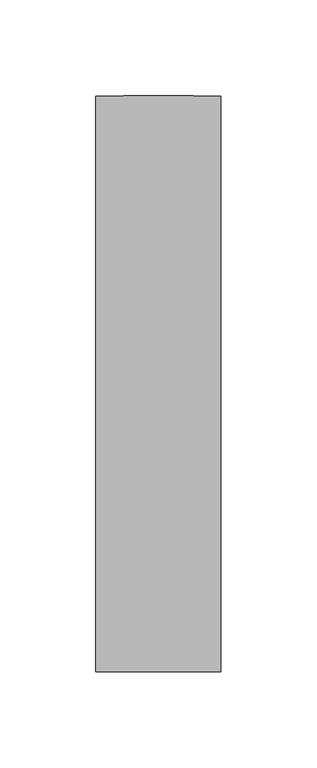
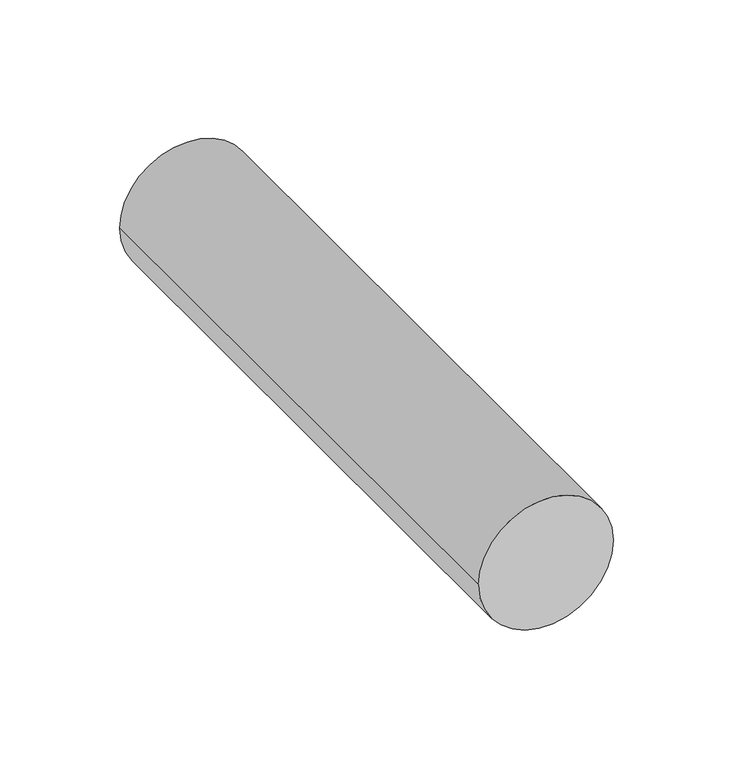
"""IFC4 building model written with IfcOpenShell, lengths in millimetres: proxy geometry, LFLO-MEXX-061."""

from ifc_helpers import new_model, si_unit, point, frame, origin, origin_2d, place, context, project, spatial, circle_curve, trimmed, segment, composite_curve, outline, extrude, source, transform, mapped, element, save


def generic_models_79030217(model_context):
    return source(origin(), model_context, "Body", "SweptSolid", [
        extrude(outline(composite_curve([segment(trimmed(circle_curve(origin_2d(), 32.5), [point((0.0, 32.5))], [point((0.0, -32.5))], False, "CARTESIAN"), True, "CONTINUOUS"), segment(trimmed(circle_curve(origin_2d(), 32.5), [point((0.0, -32.5))], [point((0.0, 32.5))], False, "CARTESIAN"), True, "CONTINUOUS")], self_intersect=False)), frame((0.0, 0.0, 0.0), z_axis=(0.0, 1.0, 0.0), x_axis=(0.0, 0.0, 1.0)), (0.0, 0.0, 1.0), 300.0),
    ])


if __name__ == "__main__":
    model = new_model("IFC4")
    model_context = context("Model", 3, world=origin())
    ifc_project = project(units=[si_unit("LENGTHUNIT", "METRE", prefix="MILLI")], contexts=[model_context])
    site = spatial("IfcSite", under=ifc_project)
    building = spatial("IfcBuilding", under=site)
    placement = place(None, origin())
    generic_models_shape = generic_models_79030217(model_context)
    element("IfcBuildingElementProxy", 1, Name="LFLO-MEXX-061", ObjectType="LFLO-MEXX-061", at=placement, inside=building, context=model_context, shape_type="MappedRepresentation", body=[
        mapped(generic_models_shape, transform((0.0, 0.0, 0.0), x_axis=(1.0, 0.0, 0.0), y_axis=(0.0, 1.0, 0.0), z_axis=(0.0, 0.0, 1.0))),
    ])
    save(model, "model.ifc")
